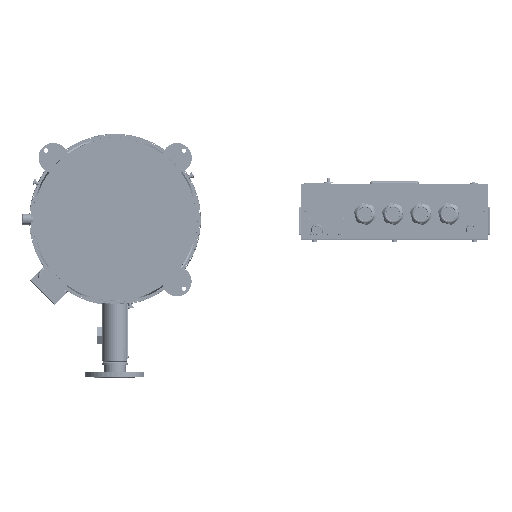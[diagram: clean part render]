
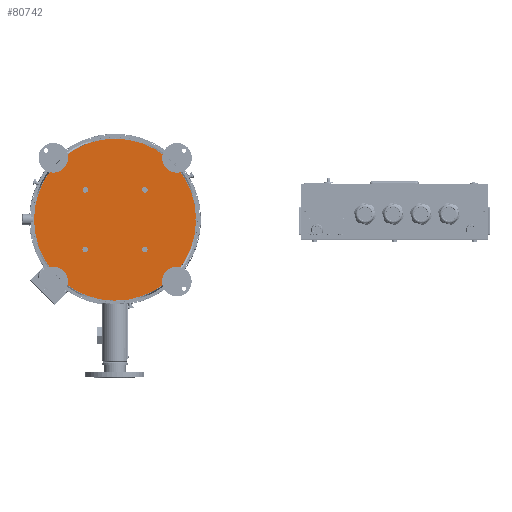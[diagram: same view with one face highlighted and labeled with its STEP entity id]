
A CAD part, front view. The second image highlights one B-rep face of the part: STEP entity #80742.
In plain terms, the highlighted planar face has unit normal (0, -1, 0).
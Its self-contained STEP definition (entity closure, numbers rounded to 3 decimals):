
#2952=FACE_BOUND('',#24561,.T.);
#2953=FACE_BOUND('',#24562,.T.);
#2954=FACE_BOUND('',#24563,.T.);
#2955=FACE_BOUND('',#24564,.T.);
#9203=LINE('',#140059,#15394);
#9204=LINE('',#140060,#15395);
#15394=VECTOR('',#106956,10.);
#15395=VECTOR('',#106957,10.);
#19808=FACE_OUTER_BOUND('',#24560,.T.);
#24560=EDGE_LOOP('',(#65648,#65649,#65650));
#24561=EDGE_LOOP('',(#65651));
#24562=EDGE_LOOP('',(#65652));
#24563=EDGE_LOOP('',(#65653));
#24564=EDGE_LOOP('',(#65654));
#29070=CIRCLE('',#88239,245.5);
#29071=CIRCLE('',#88241,8.5);
#29072=CIRCLE('',#88243,8.5);
#29073=CIRCLE('',#88245,8.5);
#29074=CIRCLE('',#88247,8.5);
#36536=VERTEX_POINT('',#140036);
#36537=VERTEX_POINT('',#140038);
#36538=VERTEX_POINT('',#140042);
#36539=VERTEX_POINT('',#140046);
#36540=VERTEX_POINT('',#140050);
#36541=VERTEX_POINT('',#140054);
#36542=VERTEX_POINT('',#140058);
#47407=EDGE_CURVE('',#36537,#36536,#29070,.T.);
#47410=EDGE_CURVE('',#36538,#36538,#29071,.T.);
#47412=EDGE_CURVE('',#36539,#36539,#29072,.T.);
#47414=EDGE_CURVE('',#36540,#36540,#29073,.T.);
#47416=EDGE_CURVE('',#36541,#36541,#29074,.T.);
#47417=EDGE_CURVE('',#36536,#36542,#9203,.T.);
#47418=EDGE_CURVE('',#36542,#36537,#9204,.T.);
#65648=ORIENTED_EDGE('',*,*,#47417,.T.);
#65649=ORIENTED_EDGE('',*,*,#47418,.T.);
#65650=ORIENTED_EDGE('',*,*,#47407,.T.);
#65651=ORIENTED_EDGE('',*,*,#47410,.T.);
#65652=ORIENTED_EDGE('',*,*,#47412,.T.);
#65653=ORIENTED_EDGE('',*,*,#47414,.T.);
#65654=ORIENTED_EDGE('',*,*,#47416,.T.);
#73875=PLANE('',#88248);
#80742=ADVANCED_FACE('',(#19808,#2952,#2953,#2954,#2955),#73875,.T.);
#88239=AXIS2_PLACEMENT_3D('',#140039,#106931,#106932);
#88241=AXIS2_PLACEMENT_3D('',#140044,#106937,#106938);
#88243=AXIS2_PLACEMENT_3D('',#140048,#106942,#106943);
#88245=AXIS2_PLACEMENT_3D('',#140052,#106947,#106948);
#88247=AXIS2_PLACEMENT_3D('',#140056,#106952,#106953);
#88248=AXIS2_PLACEMENT_3D('',#140057,#106954,#106955);
#106931=DIRECTION('center_axis',(0.,-1.,0.));
#106932=DIRECTION('ref_axis',(-1.,0.,
0.001));
#106937=DIRECTION('center_axis',(0.,1.,0.));
#106938=DIRECTION('ref_axis',(-1.,0.,
0.001));
#106942=DIRECTION('center_axis',(0.,1.,0.));
#106943=DIRECTION('ref_axis',(-0.001,0.,
-1.));
#106947=DIRECTION('center_axis',(0.,1.,0.));
#106948=DIRECTION('ref_axis',(0.001,0.,
1.));
#106952=DIRECTION('center_axis',(0.,1.,0.));
#106953=DIRECTION('ref_axis',(1.,0.,-0.001));
#106954=DIRECTION('center_axis',(0.,-1.,0.));
#106955=DIRECTION('ref_axis',(-1.,0.,
0.001));
#106956=DIRECTION('',(-0.706,0.,0.708));
#106957=DIRECTION('',(0.708,0.,0.706));
#140036=CARTESIAN_POINT('',(-5138.004,-6147.654,-411.991));
#140038=CARTESIAN_POINT('',(-5137.995,-6147.654,-406.027));
#140039=CARTESIAN_POINT('Origin',(-5383.481,-6147.654,-408.666));
#140042=CARTESIAN_POINT('',(-5284.699,-6147.654,-318.648));
#140044=CARTESIAN_POINT('Origin',(-5293.199,-6147.654,-318.636));
#140046=CARTESIAN_POINT('',(-5473.499,-6147.654,-309.884));
#140048=CARTESIAN_POINT('Origin',(-5473.511,-6147.654,-318.384));
#140050=CARTESIAN_POINT('',(-5293.463,-6147.654,-507.448));
#140052=CARTESIAN_POINT('Origin',(-5293.451,-6147.654,-498.948));
#140054=CARTESIAN_POINT('',(-5482.263,-6147.654,-498.684));
#140056=CARTESIAN_POINT('Origin',(-5473.763,-6147.654,-498.696));
#140057=CARTESIAN_POINT('Origin',(-5383.481,-6147.654,-408.666));
#140058=CARTESIAN_POINT('',(-5140.981,-6147.654,-409.005));
#140059=CARTESIAN_POINT('',(-5200.033,-6147.654,-349.788));
#140060=CARTESIAN_POINT('',(-5201.691,-6147.654,-469.545));
